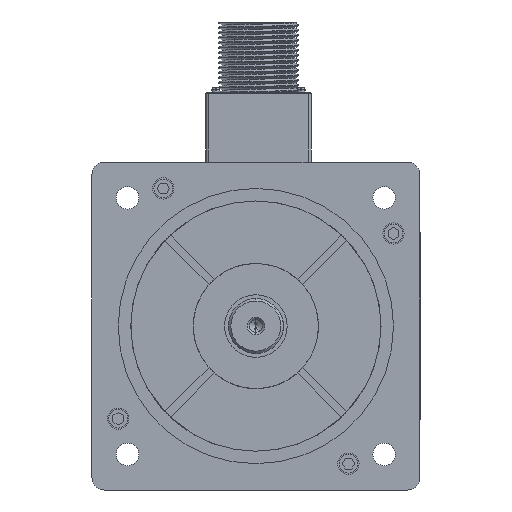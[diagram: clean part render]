
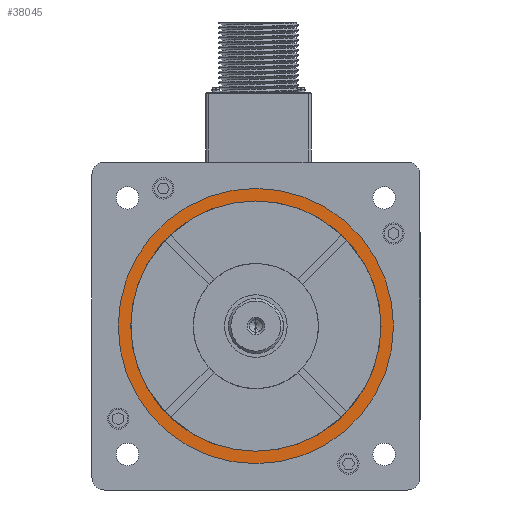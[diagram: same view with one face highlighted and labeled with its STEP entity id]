
A CAD part, left-side view. The second image highlights one B-rep face of the part: STEP entity #38045.
In plain terms, the highlighted planar face has unit normal (-1, 0, 0).
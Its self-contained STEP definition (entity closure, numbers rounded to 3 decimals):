
#125 = AXIS2_PLACEMENT_3D ( 'NONE', #18040, #42496, #21527 ) ;
#607 = VERTEX_POINT ( 'NONE', #22645 ) ;
#1703 = CIRCLE ( 'NONE', #16056, 55. ) ;
#1843 = DIRECTION ( 'NONE',  ( 0., 0., -1. ) ) ;
#2362 = CARTESIAN_POINT ( 'NONE',  ( -19., 65.602, -115.5 ) ) ;
#3566 = CIRCLE ( 'NONE', #27180, 55. ) ;
#4986 = FACE_OUTER_BOUND ( 'NONE', #21756, .T. ) ;
#6169 = DIRECTION ( 'NONE',  ( 1., 0., 0. ) ) ;
#6252 = CARTESIAN_POINT ( 'NONE',  ( -19., 65.602, -65.5 ) ) ;
#6351 = VERTEX_POINT ( 'NONE', #2362 ) ;
#7543 = EDGE_LOOP ( 'NONE', ( #14885, #36147 ) ) ;
#7626 = CARTESIAN_POINT ( 'NONE',  ( -19., 65.602, -120.5 ) ) ;
#8782 = CARTESIAN_POINT ( 'NONE',  ( -19., 65.602, -10.5 ) ) ;
#9580 = EDGE_CURVE ( 'NONE', #607, #6351, #11348, .T. ) ;
#11348 = CIRCLE ( 'NONE', #125, 50. ) ;
#13260 = PLANE ( 'NONE',  #36198 ) ;
#14885 = ORIENTED_EDGE ( 'NONE', *, *, #35732, .T. ) ;
#15340 = FACE_BOUND ( 'NONE', #7543, .T. ) ;
#16056 = AXIS2_PLACEMENT_3D ( 'NONE', #27025, #6169, #30501 ) ;
#16232 = VERTEX_POINT ( 'NONE', #7626 ) ;
#16753 = DIRECTION ( 'NONE',  ( -1., 0., 0. ) ) ;
#18040 = CARTESIAN_POINT ( 'NONE',  ( -19., 65.602, -65.5 ) ) ;
#20647 = DIRECTION ( 'NONE',  ( 1., 0., 0. ) ) ;
#21527 = DIRECTION ( 'NONE',  ( 0., 0., -1. ) ) ;
#21756 = EDGE_LOOP ( 'NONE', ( #41169, #30410 ) ) ;
#22645 = CARTESIAN_POINT ( 'NONE',  ( -19., 65.602, -15.5 ) ) ;
#22739 = DIRECTION ( 'NONE',  ( 1., 0., 0. ) ) ;
#27025 = CARTESIAN_POINT ( 'NONE',  ( -19., 65.602, -65.5 ) ) ;
#27180 = AXIS2_PLACEMENT_3D ( 'NONE', #41605, #20647, #45136 ) ;
#27834 = EDGE_CURVE ( 'NONE', #16232, #37352, #3566, .T. ) ;
#30410 = ORIENTED_EDGE ( 'NONE', *, *, #37514, .F. ) ;
#30501 = DIRECTION ( 'NONE',  ( 0., 0., -1. ) ) ;
#30574 = AXIS2_PLACEMENT_3D ( 'NONE', #43693, #22739, #1843 ) ;
#35732 = EDGE_CURVE ( 'NONE', #6351, #607, #41679, .T. ) ;
#36147 = ORIENTED_EDGE ( 'NONE', *, *, #9580, .T. ) ;
#36198 = AXIS2_PLACEMENT_3D ( 'NONE', #6252, #16753, #41188 ) ;
#37352 = VERTEX_POINT ( 'NONE', #8782 ) ;
#37514 = EDGE_CURVE ( 'NONE', #37352, #16232, #1703, .T. ) ;
#38045 = ADVANCED_FACE ( 'NONE', ( #15340, #4986 ), #13260, .T. ) ;
#41169 = ORIENTED_EDGE ( 'NONE', *, *, #27834, .F. ) ;
#41188 = DIRECTION ( 'NONE',  ( 0., 0., -1. ) ) ;
#41605 = CARTESIAN_POINT ( 'NONE',  ( -19., 65.602, -65.5 ) ) ;
#41679 = CIRCLE ( 'NONE', #30574, 50. ) ;
#42496 = DIRECTION ( 'NONE',  ( 1., 0., 0. ) ) ;
#43693 = CARTESIAN_POINT ( 'NONE',  ( -19., 65.602, -65.5 ) ) ;
#45136 = DIRECTION ( 'NONE',  ( 0., 0., -1. ) ) ;
